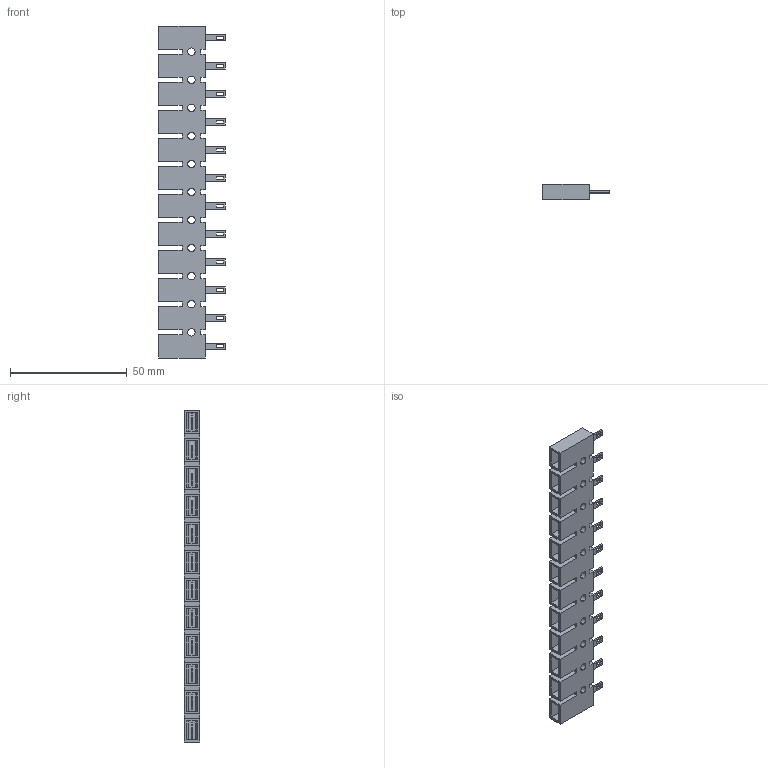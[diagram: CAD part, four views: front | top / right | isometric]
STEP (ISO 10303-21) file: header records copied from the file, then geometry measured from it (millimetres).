
FILE_DESCRIPTION (( 'STEP AP203' ), '1' );
FILE_NAME ('401-LFPA-4.8-12.STEP', '2019-01-14T02:00:38', ( '' ), ( '' ), 'SwSTEP 2.0', 'SolidWorks 2016', '' );
FILE_SCHEMA (( 'CONFIG_CONTROL_DESIGN' ));
Length unit declared in the file: millimetre
Products named in the file (1): 401-LFPA-4.8-12
Bounding box: 28.5 x 6.5 x 142 mm (x, y, z)
Volume: 10511.4 mm3; surface area: 16252 mm2
Topology: 1 solids, 1 shells, 692 faces, 1902 edges, 1260 vertices
Faces by surface type: plane 526, cylinder 166
Entity records: 22863 total; most frequent: CARTESIAN_POINT 5463, ORIENTED_EDGE 3804, DIRECTION 3164, EDGE_CURVE 1902, LINE 1402, VECTOR 1402, VERTEX_POINT 1260, AXIS2_PLACEMENT_3D 881
